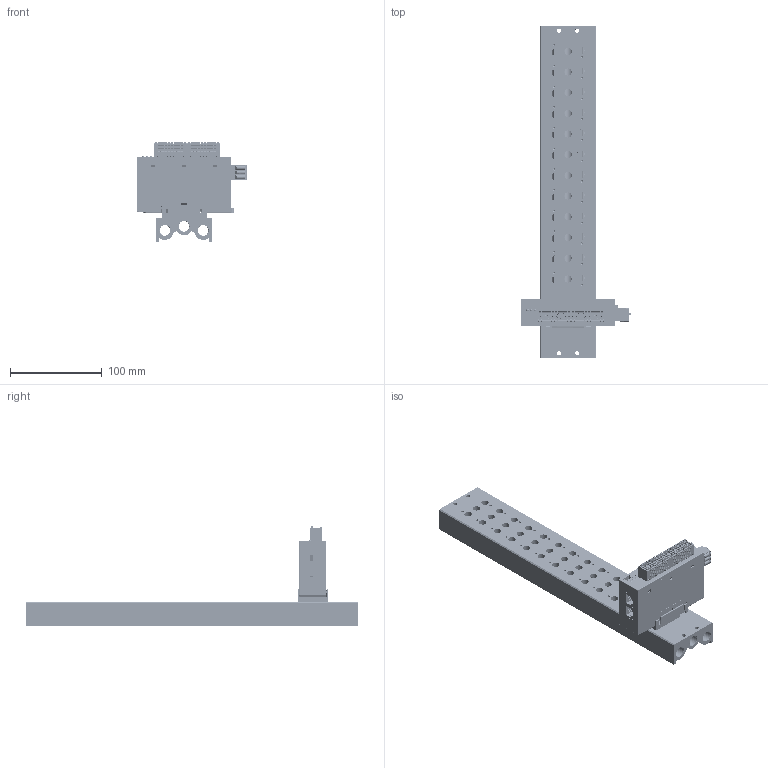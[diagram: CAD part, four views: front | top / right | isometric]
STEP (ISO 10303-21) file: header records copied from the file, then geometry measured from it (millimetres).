
FILE_DESCRIPTION(/* description */ (''),/* implementation_level */ '2;1');
FILE_NAME(/* name */ '',/* time_stamp */ '2025-10-09T16:36:48+08:00',/* author */ (''),/* organization */ (''),/* preprocessor_version */ 'ST-DEVELOPER v14',/* originating_system */ 'SIEMENS PLM Software NX 8.0',/* authorisation */ '');
FILE_SCHEMA (('AP203_CONFIGURATION_CONTROLLED_3D_DESIGN_OF_MECHANICAL_PARTS_AND_ASSEMBLIES_MIM_LF { 1 0 10303 403 2 1 2}'));
Products named in the file (1): DELL3E5857E9ucwd
Bounding box: 119.8 x 361 x 108.48 mm (x, y, z)
Volume: 523759.1 mm3; surface area: 174847.2 mm2
Topology: 2 solids, 228 shells, 9797 faces, 25939 edges, 16884 vertices
Faces by surface type: plane 6410, cylinder 2295, torus 336, bspline 335, cone 237, sphere 95, extrusion 89
Full cylindrical faces by diameter (mm): 0.18 x2, 2.5 x29, 3.05 x40, 3.3 x3, 3.5 x4, 4 x3, 4.5 x4, 6 x4, 8 x36, 11.492 x1, 11.5 x5, 11.8 x6
Entity records: 322332 total; most frequent: CARTESIAN_POINT 81307, ORIENTED_EDGE 50676, DIRECTION 48253, EDGE_CURVE 25338, VECTOR 18095, LINE 18006, VERTEX_POINT 16727, AXIS2_PLACEMENT_3D 15079
